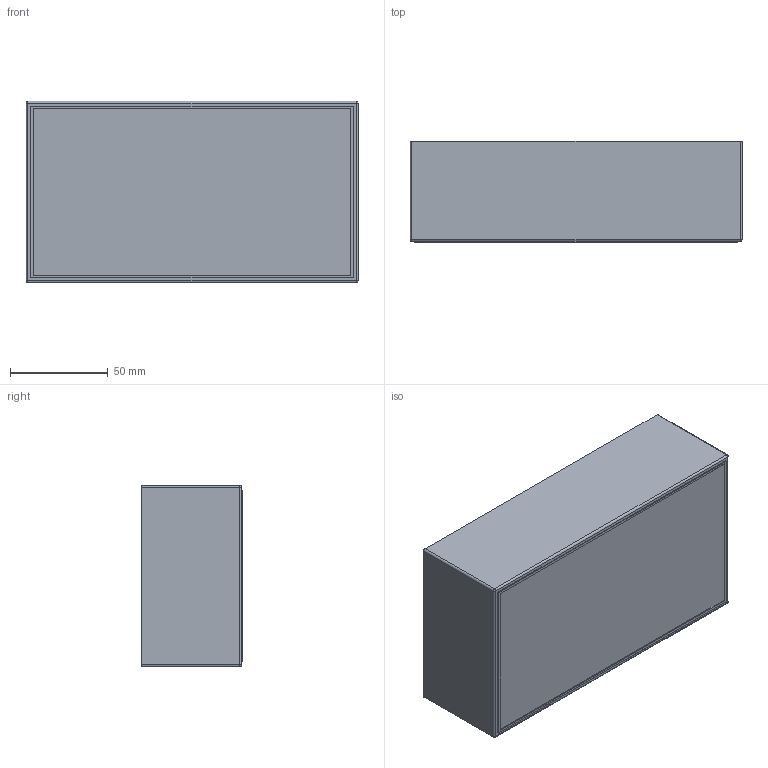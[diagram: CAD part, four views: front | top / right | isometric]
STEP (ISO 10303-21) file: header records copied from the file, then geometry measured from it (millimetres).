
FILE_DESCRIPTION (( 'STEP AP214' ), '1' );
FILE_NAME ('Conjunt GP3.STEP', '2017-07-19T08:13:48', ( 'aaa' ), ( '' ), 'SwSTEP 2.0', 'SolidWorks 2013', '' );
FILE_SCHEMA (( 'AUTOMOTIVE_DESIGN' ));
Length unit declared in the file: millimetre
Products named in the file (4): Cuerpo GP3; Conjunt GP3; Cargol 2,1x6,5 GP3; Tapa GP3
Assembly tree (6 placements, depth 2):
  Conjunt GP3
    Cuerpo GP3
    Tapa GP3
    Cargol 2,1x6,5 GP3  x4
Bounding box: 170 x 51.7 x 93 mm (x, y, z)
Volume: 145775.5 mm3; surface area: 120821.3 mm2
Topology: 6 solids, 6 shells, 553 faces, 1288 edges, 760 vertices
Faces by surface type: cone 264, plane 217, cylinder 68, sphere 4
Entity records: 9330 total; most frequent: DIRECTION 1610, CARTESIAN_POINT 1581, ORIENTED_EDGE 1544, EDGE_CURVE 772, LINE 578, VECTOR 578, AXIS2_PLACEMENT_3D 516, VERTEX_POINT 487
